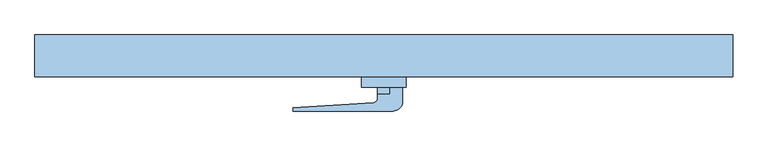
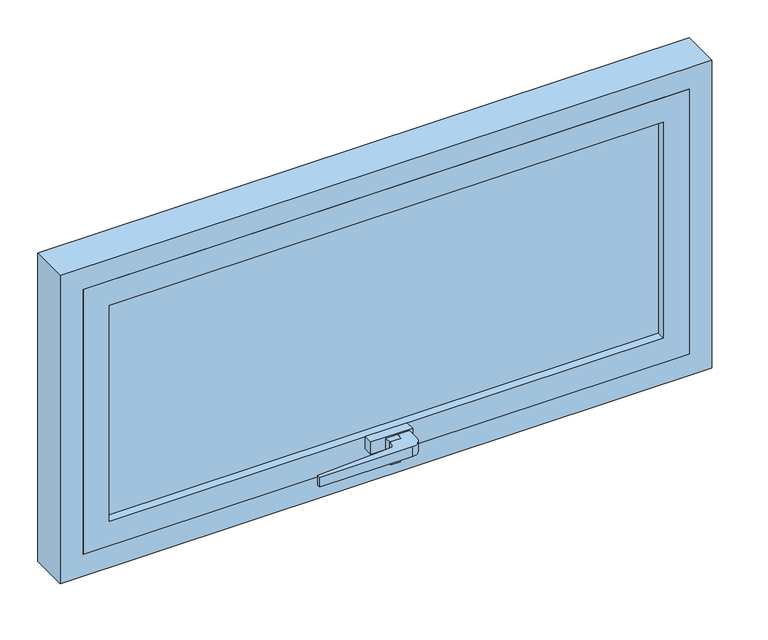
"""IFC4 building model written with IfcOpenShell, lengths in millimetres: window geometry, Janela Basculante - Vidro - Pivotante : Janela maxim-ar - 1 Painel."""

from ifc_helpers import new_model, si_unit, point, frame, frame_2d, origin, place, context, project, spatial, polyline, circle_curve, trimmed, segment, composite_curve, outline, extrude, source, transform, mapped, element, save


def window_d153a765(model_context):
    return source(origin(), model_context, "Body", "SweptSolid", [
        extrude(outline(composite_curve([segment(polyline([(9.0, -100.0), (9.0, -90.0), (27.0, -90.0), (27.0, -110.0)]), True, "CONTINUOUS"), segment(trimmed(circle_curve(frame_2d((13.0, -110.0)), 14.0), [point((27.0, -110.0))], [point((13.0, -124.0))], False, "CARTESIAN"), True, "CONTINUOUS"), segment(polyline([(13.0, -124.0), (-130.0, -124.0), (-130.0, -119.0), (-14.6705919, -111.9888756)]), True, "CONTINUOUS"), segment(trimmed(circle_curve(frame_2d((-15.0369126, -105.9630874)), 6.0369126), [point((-14.6705919, -111.9888756))], [point((-9.0, -105.9630874))], True, "CARTESIAN"), True, "CONTINUOUS"), segment(polyline([(-9.0, -105.9630874), (-9.0, -100.0), (9.0, -100.0)]), True, "CONTINUOUS")], self_intersect=False)), frame((0.0, 0.0, 707.0), z_axis=(0.0, 0.0, 1.0), x_axis=(1.0, 0.0, 0.0)), (0.0, 0.0, 1.0), 16.0),
        extrude(outline(polyline([(723.0, 9.0), (723.0, -9.0), (703.0135985, -9.0), (685.0, -6.9842809), (685.0, 7.0348924), (703.0135985, 9.0), (723.0, 9.0)])), frame((0.0, -100.0, 0.0), z_axis=(0.0, 1.0, 0.0), x_axis=(0.0, 0.0, 1.0)), (0.0, 0.0, 1.0), 10.0),
        extrude(outline(polyline([(32.0, -90.0), (-32.0, -90.0), (-32.0, -75.0), (32.0, -75.0), (32.0, -90.0)])), frame((0.0, 0.0, 705.0), z_axis=(0.0, 0.0, 1.0), x_axis=(1.0, 0.0, 0.0)), (0.0, 0.0, 1.0), 20.0),
        extrude(outline(polyline([(425.0, -48.0), (425.0, -62.0), (-425.0, -62.0), (-425.0, -48.0), (425.0, -48.0)])), frame((0.0, 0.0, 725.0), z_axis=(0.0, 0.0, 1.0), x_axis=(1.0, 0.0, 0.0)), (0.0, 0.0, 1.0), 350.0),
        extrude(outline(polyline([(685.0, -465.0), (685.0, 465.0), (1115.0, 465.0), (1115.0, -465.0), (685.0, -465.0)]), holes=[polyline([(1075.0, -425.0), (1075.0, 425.0), (725.0, 425.0), (725.0, -425.0), (1075.0, -425.0)])]), frame((0.0, -75.0, 0.0), z_axis=(0.0, 1.0, 0.0), x_axis=(0.0, 0.0, 1.0)), (0.0, 0.0, 1.0), 40.0),
        extrude(outline(polyline([(650.0, -500.0), (650.0, 500.0), (1150.0, 500.0), (1150.0, -500.0), (650.0, -500.0)]), holes=[polyline([(1115.0, -465.0), (1115.0, 465.0), (685.0, 465.0), (685.0, -465.0), (1115.0, -465.0)])]), frame((0.0, -75.0, 0.0), z_axis=(0.0, 1.0, 0.0), x_axis=(0.0, 0.0, 1.0)), (0.0, 0.0, 1.0), 60.0),
    ])


if __name__ == "__main__":
    model = new_model("IFC4")
    model_context = context("Model", 3, world=origin())
    ifc_project = project(units=[si_unit("LENGTHUNIT", "METRE", prefix="MILLI")], contexts=[model_context])
    site = spatial("IfcSite", under=ifc_project)
    building = spatial("IfcBuilding", under=site)
    placement = place(None, origin())
    window_shape = window_d153a765(model_context)
    element("IfcWindow", 1, ObjectType="Janela Basculante - Vidro - Pivotante : Janela maxim-ar - 1 Painel", at=placement, inside=building, context=model_context, shape_type="MappedRepresentation", body=[
        mapped(window_shape, transform((0.0, 0.0, 0.0), x_axis=(1.0, 0.0, 0.0), y_axis=(0.0, 1.0, 0.0), z_axis=(0.0, 0.0, 1.0))),
    ])
    save(model, "model.ifc")
